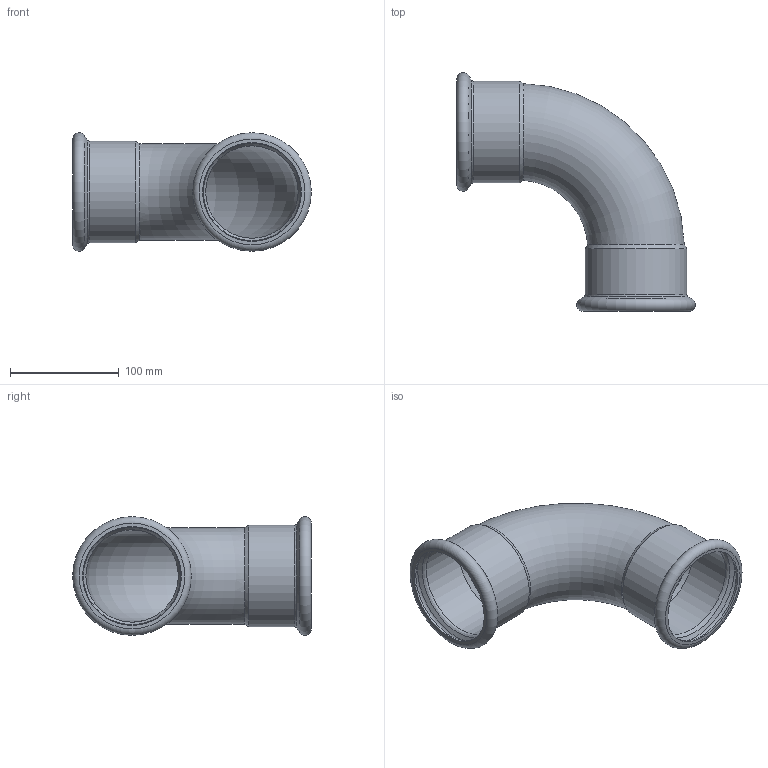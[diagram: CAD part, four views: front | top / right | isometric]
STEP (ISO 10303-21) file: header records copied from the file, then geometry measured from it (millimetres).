
FILE_DESCRIPTION((''),'2;1');
FILE_NAME('G:\Technics\CAD\Bauteile\089\69002A89(1).stp','2008-03-12T13:57:29',('herberg'),(''),'Autodesk Inventor 2008','Autodesk Inventor 2008','');
FILE_SCHEMA(('AUTOMOTIVE_DESIGN { 1 0 10303 214 1 1 1 1 }'));
Length unit declared in the file: millimetre
Products named in the file (1): 69002A89(1)
Bounding box: 219.54 x 219.55 x 109.1 mm (x, y, z)
Volume: 171441.4 mm3; surface area: 172587.4 mm2
Topology: 1 solids, 1 shells, 28 faces, 54 edges, 30 vertices
Faces by surface type: cone 8, cylinder 6, torus 6, bspline 4, plane 4
Full cylindrical faces by diameter (mm): 89.5 x2, 91 x2, 93.5 x2
Entity records: 886 total; most frequent: CARTESIAN_POINT 405, DIRECTION 98, ORIENTED_EDGE 56, EDGE_LOOP 56, AXIS2_PLACEMENT_3D 49, VERTEX_POINT 28, EDGE_CURVE 28, FACE_OUTER_BOUND 28
